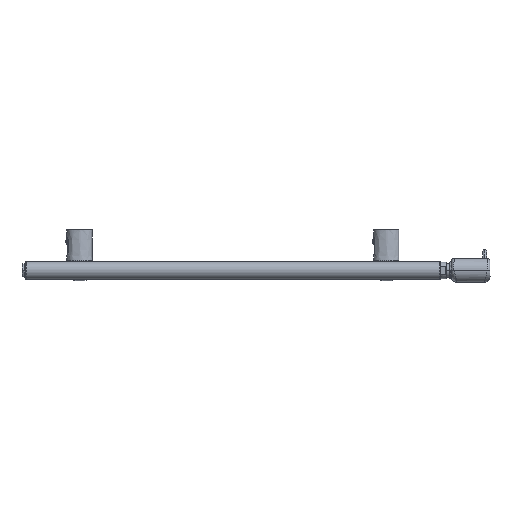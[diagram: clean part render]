
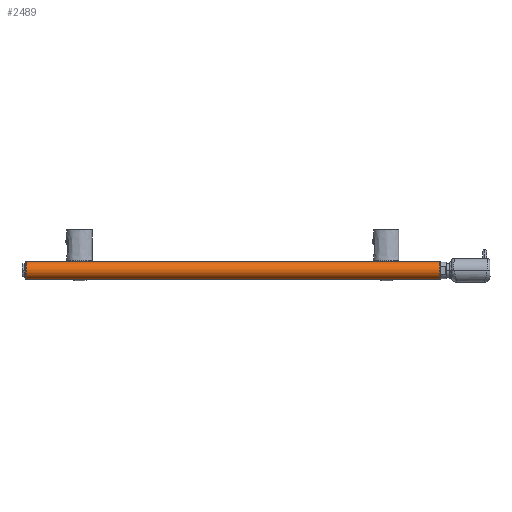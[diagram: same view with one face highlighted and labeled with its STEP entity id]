
A CAD part, left-side view. The second image highlights one B-rep face of the part: STEP entity #2489.
In plain terms, the highlighted cylindrical face has radius 15 mm (diameter 30 mm), a partial arc.
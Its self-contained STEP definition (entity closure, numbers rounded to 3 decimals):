
#935=DIRECTION('',(0.,1.,0.));
#936=VECTOR('',#935,698.4);
#937=CARTESIAN_POINT('',(-185.,-349.2,-15.));
#938=LINE('',#937,#936);
#1046=DIRECTION('',(0.,-1.,0.));
#1047=VECTOR('',#1046,698.4);
#1048=CARTESIAN_POINT('',(-185.,349.2,15.));
#1049=LINE('',#1048,#1047);
#1146=CARTESIAN_POINT('',(-185.,349.2,0.));
#1147=DIRECTION('',(0.,-1.,0.));
#1148=DIRECTION('',(0.,0.,1.));
#1149=AXIS2_PLACEMENT_3D('',#1146,#1147,#1148);
#1154=CARTESIAN_POINT('',(-185.,-349.2,0.));
#1155=DIRECTION('',(0.,1.,0.));
#1156=DIRECTION('',(0.,0.,-1.));
#1157=AXIS2_PLACEMENT_3D('',#1154,#1155,#1156);
#1687=CARTESIAN_POINT('',(-185.,349.2,15.));
#1689=VERTEX_POINT('',#1687);
#1694=CARTESIAN_POINT('',(-185.,349.2,-15.));
#1695=VERTEX_POINT('',#1694);
#1712=CARTESIAN_POINT('',(-185.,-349.2,15.));
#1714=VERTEX_POINT('',#1712);
#1716=CARTESIAN_POINT('',(-185.,-349.2,-15.));
#1717=VERTEX_POINT('',#1716);
#2477=CARTESIAN_POINT('',(-185.,1263.241,0.));
#2478=DIRECTION('',(0.,-1.,0.));
#2479=DIRECTION('',(0.,0.,1.));
#2480=AXIS2_PLACEMENT_3D('',#2477,#2478,#2479);
#2481=CYLINDRICAL_SURFACE('',#2480,15.);
#2483=ORIENTED_EDGE('',*,*,#2482,.F.);
#2484=ORIENTED_EDGE('',*,*,#2391,.T.);
#2485=ORIENTED_EDGE('',*,*,#2468,.F.);
#2486=ORIENTED_EDGE('',*,*,#2318,.T.);
#2487=EDGE_LOOP('',(#2483,#2484,#2485,#2486));
#2488=FACE_OUTER_BOUND('',#2487,.F.);
#1150=CIRCLE('',#1149,15.);
#1158=CIRCLE('',#1157,15.);
#2318=EDGE_CURVE('',#1717,#1695,#938,.T.);
#2391=EDGE_CURVE('',#1689,#1714,#1049,.T.);
#2468=EDGE_CURVE('',#1717,#1714,#1158,.T.);
#2482=EDGE_CURVE('',#1689,#1695,#1150,.T.);
#2489=ADVANCED_FACE('',(#2488),#2481,.T.);
